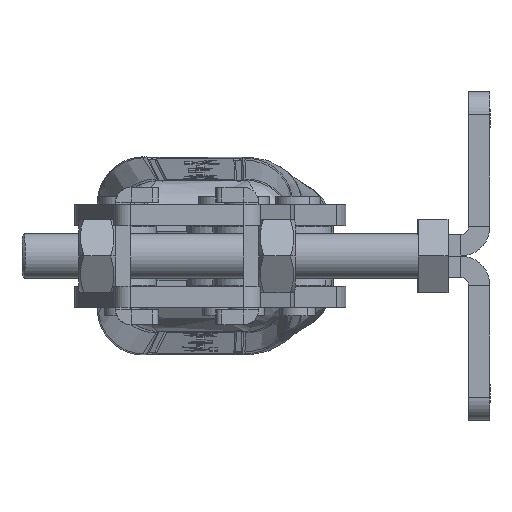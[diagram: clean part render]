
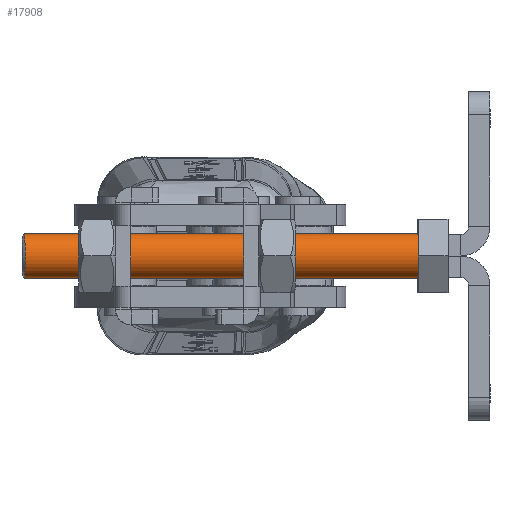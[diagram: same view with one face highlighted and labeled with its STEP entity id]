
A CAD part, left-side view. The second image highlights one B-rep face of the part: STEP entity #17908.
In plain terms, the highlighted cylindrical face has radius 4 mm (diameter 8 mm), a partial arc.
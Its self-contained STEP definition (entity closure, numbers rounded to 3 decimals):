
#767 = CARTESIAN_POINT ( 'NONE',  ( 0., 0., -4. ) ) ;
#1667 = DIRECTION ( 'NONE',  ( 0., 1., 0. ) ) ;
#1746 = VECTOR ( 'NONE', #7449, 1000. ) ;
#2388 = CIRCLE ( 'NONE', #18839, 4. ) ;
#5097 = CARTESIAN_POINT ( 'NONE',  ( 0., -69.5, -4. ) ) ;
#5387 = EDGE_CURVE ( 'NONE', #21246, #10906, #20784, .T. ) ;
#7449 = DIRECTION ( 'NONE',  ( 0., 1., 0. ) ) ;
#7659 = DIRECTION ( 'NONE',  ( 0., 1., 0. ) ) ;
#7954 = VERTEX_POINT ( 'NONE', #5097 ) ;
#8554 = ORIENTED_EDGE ( 'NONE', *, *, #11764, .T. ) ;
#8825 = AXIS2_PLACEMENT_3D ( 'NONE', #18129, #1667, #8998 ) ;
#8998 = DIRECTION ( 'NONE',  ( 0., 0., 1. ) ) ;
#10048 = CARTESIAN_POINT ( 'NONE',  ( 0., 0., 0. ) ) ;
#10221 = CIRCLE ( 'NONE', #18653, 4. ) ;
#10772 = FACE_OUTER_BOUND ( 'NONE', #13856, .T. ) ;
#10906 = VERTEX_POINT ( 'NONE', #12176 ) ;
#11764 = EDGE_CURVE ( 'NONE', #10906, #23787, #10221, .T. ) ;
#11960 = DIRECTION ( 'NONE',  ( 0., 0., 1. ) ) ;
#12176 = CARTESIAN_POINT ( 'NONE',  ( 0., 0., 4. ) ) ;
#13650 = EDGE_CURVE ( 'NONE', #7954, #21246, #2388, .T. ) ;
#13856 = EDGE_LOOP ( 'NONE', ( #17237, #23032, #17535, #8554 ) ) ;
#13986 = CYLINDRICAL_SURFACE ( 'NONE', #8825, 4. ) ;
#14244 = CARTESIAN_POINT ( 'NONE',  ( 0., -69.5, 4. ) ) ;
#14670 = CARTESIAN_POINT ( 'NONE',  ( 0., -70., -4. ) ) ;
#15701 = EDGE_CURVE ( 'NONE', #7954, #23787, #15948, .T. ) ;
#15948 = LINE ( 'NONE', #14670, #1746 ) ;
#16121 = DIRECTION ( 'NONE',  ( 0., 1., 0. ) ) ;
#16429 = CARTESIAN_POINT ( 'NONE',  ( 0., -70., 4. ) ) ;
#16569 = VECTOR ( 'NONE', #16121, 1000. ) ;
#17237 = ORIENTED_EDGE ( 'NONE', *, *, #15701, .F. ) ;
#17535 = ORIENTED_EDGE ( 'NONE', *, *, #5387, .T. ) ;
#17908 = ADVANCED_FACE ( 'NONE', ( #10772 ), #13986, .T. ) ;
#18129 = CARTESIAN_POINT ( 'NONE',  ( 0., -70., 0. ) ) ;
#18653 = AXIS2_PLACEMENT_3D ( 'NONE', #10048, #22874, #11960 ) ;
#18706 = CARTESIAN_POINT ( 'NONE',  ( 0., -69.5, 0. ) ) ;
#18839 = AXIS2_PLACEMENT_3D ( 'NONE', #18706, #7659, #20486 ) ;
#20486 = DIRECTION ( 'NONE',  ( 0., 0., -1. ) ) ;
#20784 = LINE ( 'NONE', #16429, #16569 ) ;
#21246 = VERTEX_POINT ( 'NONE', #14244 ) ;
#22874 = DIRECTION ( 'NONE',  ( 0., -1., 0. ) ) ;
#23032 = ORIENTED_EDGE ( 'NONE', *, *, #13650, .T. ) ;
#23787 = VERTEX_POINT ( 'NONE', #767 ) ;
